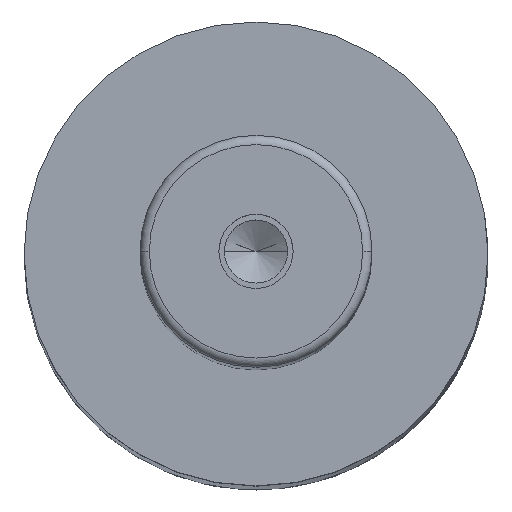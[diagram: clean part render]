
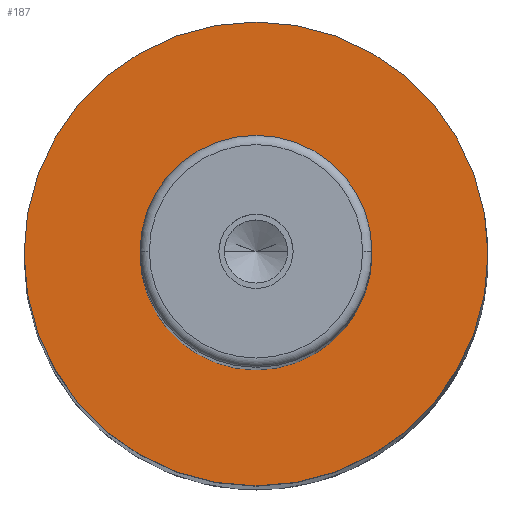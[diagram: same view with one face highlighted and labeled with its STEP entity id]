
A CAD part, top view. The second image highlights one B-rep face of the part: STEP entity #187.
In plain terms, the highlighted planar face has unit normal (0, 0, 1).
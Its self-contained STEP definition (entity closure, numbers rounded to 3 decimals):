
#109=PLANE('',#1002);
#132=FACE_BOUND('',#299,.T.);
#133=FACE_BOUND('',#300,.T.);
#187=ADVANCED_FACE('',(#132,#133),#109,.T.);
#299=EDGE_LOOP('',(#463,#464));
#300=EDGE_LOOP('',(#465,#466));
#367=CIRCLE('',#996,12.5);
#368=CIRCLE('',#998,12.5);
#369=CIRCLE('',#1000,25.);
#370=CIRCLE('',#1001,25.);
#463=ORIENTED_EDGE('',*,*,#766,.F.);
#464=ORIENTED_EDGE('',*,*,#767,.F.);
#465=ORIENTED_EDGE('',*,*,#765,.T.);
#466=ORIENTED_EDGE('',*,*,#763,.T.);
#676=VERTEX_POINT('',#1435);
#677=VERTEX_POINT('',#1437);
#678=VERTEX_POINT('',#1443);
#679=VERTEX_POINT('',#1444);
#763=EDGE_CURVE('',#677,#676,#367,.T.);
#765=EDGE_CURVE('',#676,#677,#368,.T.);
#766=EDGE_CURVE('',#678,#679,#369,.T.);
#767=EDGE_CURVE('',#679,#678,#370,.T.);
#996=AXIS2_PLACEMENT_3D('',#1436,#1150,#1151);
#998=AXIS2_PLACEMENT_3D('',#1440,#1155,#1156);
#1000=AXIS2_PLACEMENT_3D('',#1442,#1159,#1160);
#1001=AXIS2_PLACEMENT_3D('',#1445,#1161,#1162);
#1002=AXIS2_PLACEMENT_3D('',#1446,#1163,#1164);
#1150=DIRECTION('',(0.,0.,-1.));
#1151=DIRECTION('',(0.,1.,0.));
#1155=DIRECTION('',(0.,0.,-1.));
#1156=DIRECTION('',(0.,-1.,0.));
#1159=DIRECTION('',(0.,0.,-1.));
#1160=DIRECTION('',(0.,1.,0.));
#1161=DIRECTION('',(0.,0.,-1.));
#1162=DIRECTION('',(0.,-1.,0.));
#1163=DIRECTION('',(0.,0.,1.));
#1164=DIRECTION('',(0.,-1.,0.));
#1435=CARTESIAN_POINT('',(-12.5,0.,252.));
#1436=CARTESIAN_POINT('',(0.,0.,252.));
#1437=CARTESIAN_POINT('',(12.5,0.,252.));
#1440=CARTESIAN_POINT('',(0.,0.,252.));
#1442=CARTESIAN_POINT('',(0.,0.,252.));
#1443=CARTESIAN_POINT('',(25.,0.,252.));
#1444=CARTESIAN_POINT('',(-25.,0.,252.));
#1445=CARTESIAN_POINT('',(0.,0.,252.));
#1446=CARTESIAN_POINT('',(0.,0.,252.));
